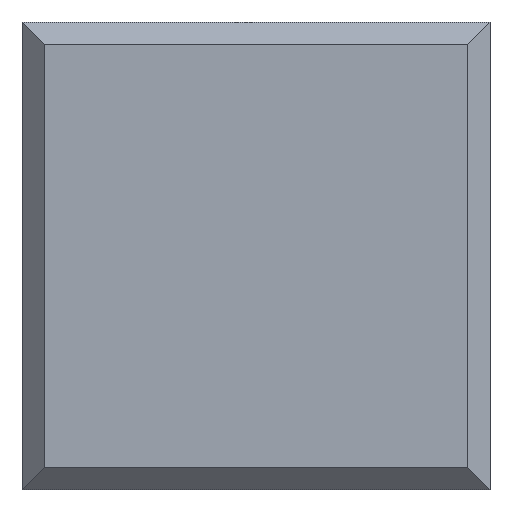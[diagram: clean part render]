
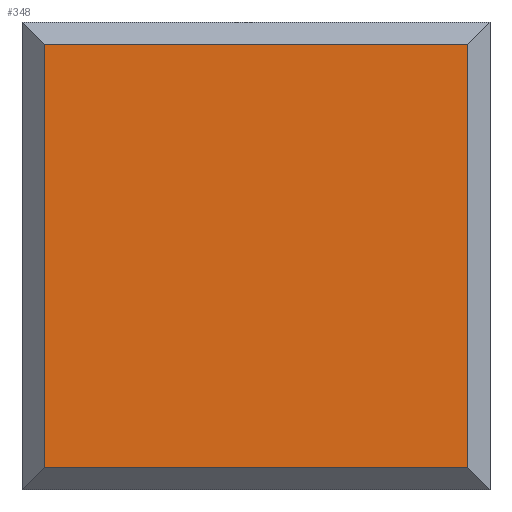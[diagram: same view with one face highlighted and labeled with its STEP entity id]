
A CAD part, top view. The second image highlights one B-rep face of the part: STEP entity #348.
In plain terms, the highlighted planar face has unit normal (0, 0, 1).
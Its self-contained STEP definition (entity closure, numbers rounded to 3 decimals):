
#66=FACE_OUTER_BOUND('',#91,.T.);
#91=EDGE_LOOP('',(#270,#271,#272,#273));
#143=LINE('',#558,#167);
#144=LINE('',#560,#168);
#145=LINE('',#562,#169);
#146=LINE('',#563,#170);
#167=VECTOR('',#448,10.);
#168=VECTOR('',#449,10.);
#169=VECTOR('',#450,10.);
#170=VECTOR('',#451,10.);
#189=VERTEX_POINT('',#556);
#190=VERTEX_POINT('',#557);
#191=VERTEX_POINT('',#559);
#192=VERTEX_POINT('',#561);
#225=EDGE_CURVE('',#189,#190,#143,.T.);
#226=EDGE_CURVE('',#191,#189,#144,.T.);
#227=EDGE_CURVE('',#192,#191,#145,.T.);
#228=EDGE_CURVE('',#190,#192,#146,.T.);
#270=ORIENTED_EDGE('',*,*,#225,.F.);
#271=ORIENTED_EDGE('',*,*,#226,.F.);
#272=ORIENTED_EDGE('',*,*,#227,.F.);
#273=ORIENTED_EDGE('',*,*,#228,.F.);
#332=PLANE('',#381);
#348=ADVANCED_FACE('',(#66),#332,.T.);
#381=AXIS2_PLACEMENT_3D('',#555,#446,#447);
#446=DIRECTION('center_axis',(0.,0.,
1.));
#447=DIRECTION('ref_axis',(1.,0.,0.));
#448=DIRECTION('',(1.,0.,0.));
#449=DIRECTION('',(0.,1.,0.));
#450=DIRECTION('',(-1.,0.,0.));
#451=DIRECTION('',(0.,-1.,0.));
#555=CARTESIAN_POINT('Origin',(0.,0.,
48.));
#556=CARTESIAN_POINT('',(-95.,95.,48.));
#557=CARTESIAN_POINT('',(95.,95.,48.));
#558=CARTESIAN_POINT('',(-95.,95.,48.));
#559=CARTESIAN_POINT('',(-95.,-95.,48.));
#560=CARTESIAN_POINT('',(-95.,-95.,48.));
#561=CARTESIAN_POINT('',(95.,-95.,48.));
#562=CARTESIAN_POINT('',(95.,-95.,48.));
#563=CARTESIAN_POINT('',(95.,95.,48.));
